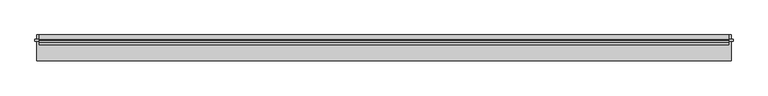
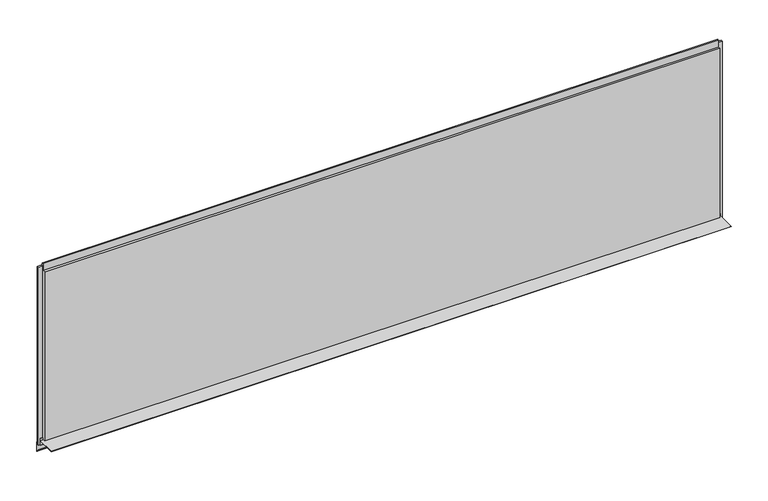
"""IFC4 building model written with IfcOpenShell, lengths in millimetres: plate geometry, Trimo_Qbiss Screen_Normal Panel-HORIZONTAL : HR - B."""

import ifcopenshell
import ifcopenshell.guid

model = None  # the IFC model being written
_history = None  # IfcOwnerHistory: only IFC2X3 demands one
_inside = {}  # id of a spatial element -> (the spatial element, [elements in it])
_under = {}  # id of a project, library or spatial element -> (it, [spatial elements below it])
_declared = {}  # id of a project -> (the project, [libraries it declares])
_typed = {}  # id of a type object -> (the type object, [elements of that type])
_made_of = {}  # id of a material, layer set ... -> (it, [elements and type objects made of it])


def new_model(schema):
    """Start an empty IFC model of exactly this schema.

    Asked for "IFC4X3", IfcOpenShell would pick the latest addendum, in which some entities
    have other attributes; the version numbers below select the first issue.
    IFC2X3 requires an IfcOwnerHistory on every rooted entity: one is made here for all.
    """
    global model, _history
    if schema == "IFC4X3":
        model = ifcopenshell.file(schema_version=(4, 3, 0, 0))
    else:
        model = ifcopenshell.file(schema=schema)
    _inside.clear()
    _under.clear()
    _declared.clear()
    _typed.clear()
    _made_of.clear()
    _history = None
    if model.schema == "IFC2X3":
        org = make("IfcOrganization", Name="unknown")
        user = make(
            "IfcPersonAndOrganization",
            ThePerson=make("IfcPerson", FamilyName="unknown"),
            TheOrganization=org,
        )
        app = make(
            "IfcApplication",
            ApplicationDeveloper=org,
            Version="unknown",
            ApplicationFullName="unknown",
            ApplicationIdentifier="unknown",
        )
        _history = make(
            "IfcOwnerHistory",
            OwningUser=user,
            OwningApplication=app,
            ChangeAction="ADDED",
            CreationDate=0,
        )
    return model


def make(cls, **values):
    """One entity of the class cls with the attributes given. An attribute that is None is left unset."""
    return model.create_entity(
        cls, **{name: value for name, value in values.items() if value is not None}
    )


def rooted(cls, **values):
    """An entity with a GlobalId (a new one), such as an element, a storey or a relation."""
    return make(cls, GlobalId=ifcopenshell.guid.new(), OwnerHistory=_history, **values)


def si_unit(unit_type, name, prefix=None):
    """IfcSIUnit, for example si_unit("LENGTHUNIT", "METRE", prefix="MILLI")."""
    return make("IfcSIUnit", UnitType=unit_type, Prefix=prefix, Name=name)


def assignment(units):
    """IfcUnitAssignment: the units of a project."""
    return None if units is None else make("IfcUnitAssignment", Units=units)


def point(xyz):
    """IfcCartesianPoint."""
    return None if xyz is None else make("IfcCartesianPoint", Coordinates=xyz)


def direction(xyz):
    """IfcDirection."""
    return None if xyz is None else make("IfcDirection", DirectionRatios=xyz)


def frame(location, z_axis=None, x_axis=None):
    """IfcAxis2Placement3D, a coordinate frame: its origin and axes. An axis left out is left unset."""
    return make(
        "IfcAxis2Placement3D",
        Location=point(location),
        Axis=direction(z_axis),
        RefDirection=direction(x_axis),
    )


def origin():
    """The frame at (0, 0, 0) with its axes left unset."""
    return frame((0.0, 0.0, 0.0))


def place(relative_to, where):
    """IfcLocalPlacement: puts the frame where relative to a parent placement (None: the world)."""
    return make(
        "IfcLocalPlacement", PlacementRelTo=relative_to, RelativePlacement=where
    )


def context(
    kind, dimensions, precision=None, world=None, true_north=None, identifier=None
):
    """IfcGeometricRepresentationContext, for example the 3D "Model" context."""
    return make(
        "IfcGeometricRepresentationContext",
        ContextIdentifier=identifier,
        ContextType=kind,
        CoordinateSpaceDimension=dimensions,
        Precision=precision,
        WorldCoordinateSystem=world,
        TrueNorth=true_north,
    )


def project(units=None, contexts=None):
    """IfcProject with its units and contexts."""
    return rooted(
        "IfcProject",
        Name="project",
        RepresentationContexts=contexts,
        UnitsInContext=assignment(units),
    )


def spatial(cls, under=None, at=None, **own):
    """A site, building, storey or space (cls), placed at a placement, below another one or the project."""
    s = rooted(cls, ObjectPlacement=at, **own)
    if under is not None:
        _under.setdefault(under.id(), (under, []))[1].append(s)
    return s


def polyline(points):
    """IfcPolyline through the points."""
    return make("IfcPolyline", Points=[point(p) for p in points])


def outline(outer, holes=None, kind="AREA"):
    """IfcArbitraryClosedProfileDef: a profile drawn as a closed curve; with holes, ...WithVoids."""
    if holes is None:
        return make("IfcArbitraryClosedProfileDef", ProfileType=kind, OuterCurve=outer)
    return make(
        "IfcArbitraryProfileDefWithVoids",
        ProfileType=kind,
        OuterCurve=outer,
        InnerCurves=holes,
    )


def extrude(swept, where, along, depth):
    """IfcExtrudedAreaSolid: the profile swept, set in the frame where, extruded along a direction by depth."""
    return make(
        "IfcExtrudedAreaSolid",
        SweptArea=swept,
        Position=where,
        ExtrudedDirection=direction(along),
        Depth=depth,
    )


def shape(context_of_items, identifier, shape_type, items):
    """IfcShapeRepresentation: the items that make up one representation, for example the "Body"."""
    return make(
        "IfcShapeRepresentation",
        ContextOfItems=context_of_items,
        RepresentationIdentifier=identifier,
        RepresentationType=shape_type,
        Items=items,
    )


def source(mapping_origin, context_of_items, identifier, shape_type, items):
    """IfcRepresentationMap: a shape defined once, which mapped items show again and again."""
    return make(
        "IfcRepresentationMap",
        MappingOrigin=mapping_origin,
        MappedRepresentation=shape(context_of_items, identifier, shape_type, items),
    )


def transform(
    local_origin,
    x_axis=None,
    y_axis=None,
    z_axis=None,
    scale=None,
    scale2=None,
    scale3=None,
    uniform=True,
):
    """IfcCartesianTransformationOperator3D, or its non-uniform kind. x_axis, y_axis, z_axis: its Axis1, 2, 3."""
    if uniform:
        return make(
            "IfcCartesianTransformationOperator3D",
            Axis1=direction(x_axis),
            Axis2=direction(y_axis),
            LocalOrigin=point(local_origin),
            Scale=scale,
            Axis3=direction(z_axis),
        )
    return make(
        "IfcCartesianTransformationOperator3DnonUniform",
        Axis1=direction(x_axis),
        Axis2=direction(y_axis),
        LocalOrigin=point(local_origin),
        Scale=scale,
        Axis3=direction(z_axis),
        Scale2=scale2,
        Scale3=scale3,
    )


def mapped(mapping_source, mapping_target):
    """IfcMappedItem: shows the shape of a source again, moved by a transform."""
    return make(
        "IfcMappedItem", MappingSource=mapping_source, MappingTarget=mapping_target
    )


def made_of(thing, what):
    """Note that an element or type object is made of a material, layer set ...; save() writes the relation."""
    if what is not None:
        _made_of.setdefault(what.id(), (what, []))[1].append(thing)
    return thing


def element(
    cls,
    number,
    at=None,
    inside=None,
    cuts=None,
    type_object=None,
    material=None,
    context=None,
    identifier="Body",
    shape_type=None,
    held_by="IfcProductDefinitionShape",
    body=None,
    shapes=None,
    **own,
):
    """One element of the class cls, such as IfcWall. Its Tag is "e" and its number.

    at: its placement. inside: the storey or other place that contains it. cuts: it is an
    opening in that element (IfcRelVoidsElement). A single representation is given by context,
    identifier, shape_type and body (its items); several are given by shapes. held_by: the class
    of the entity that holds the representations. save() writes the other relations.
    """
    e = rooted(cls, Tag="e%d" % number, ObjectPlacement=at, **own)
    if body is not None:
        shapes = [shape(context, identifier, shape_type, body)]
    if shapes is not None:
        e.Representation = make(held_by, Representations=shapes)
    if inside is not None:
        _inside.setdefault(inside.id(), (inside, []))[1].append(e)
    if cuts is not None:
        rooted(
            "IfcRelVoidsElement", RelatingBuildingElement=cuts, RelatedOpeningElement=e
        )
    if type_object is not None:
        _typed.setdefault(type_object.id(), (type_object, []))[1].append(e)
    return made_of(e, material)


def aggregate(whole, parts):
    """IfcRelAggregates: a whole, such as a stair, and the parts it consists of."""
    return rooted("IfcRelAggregates", RelatingObject=whole, RelatedObjects=parts)


def save(model, path):
    """Write the relations noted so far, then the file.

    IfcRelAggregates (storeys below a building ...), IfcRelContainedInSpatialStructure (elements
    in a storey), IfcRelDefinesByType, IfcRelAssociatesMaterial and IfcRelDeclares: one each for
    every whole, place, type object, material and project.
    """
    for whole, parts in _under.values():
        aggregate(whole, parts)
    for where, things in _inside.values():
        rooted(
            "IfcRelContainedInSpatialStructure",
            RelatedElements=things,
            RelatingStructure=where,
        )
    for kind, things in _typed.values():
        rooted("IfcRelDefinesByType", RelatedObjects=things, RelatingType=kind)
    for what, things in _made_of.values():
        rooted("IfcRelAssociatesMaterial", RelatedObjects=things, RelatingMaterial=what)
    for by, libraries in _declared.values():
        rooted("IfcRelDeclares", RelatingContext=by, RelatedDefinitions=libraries)
    model.write(path)


def plate_ef928dc7(model_context):
    return source(origin(), model_context, "Body", "SweptSolid", [
        extrude(outline(polyline([(66.7, 14.0835797), (67.5, 14.0835797), (67.5, -23.0), (100.0, -25.8433816), (100.0, -76.0), (87.1509533, -63.1509533), (87.7166388, -62.5852679), (99.2, -74.0686292), (99.2, -26.5764465), (66.7, -23.7330649), (66.7, 1.0), (-32.5, 1.0), (-32.5, 1.8), (66.7, 1.8), (66.7, 14.0835797)])), frame((-1787.5, 0.0, 0.0), z_axis=(1.0, 0.0, 0.0), x_axis=(0.0, 1.0, 0.0)), (0.0, 0.0, 1.0), 3575.0),
        extrude(outline(polyline([(-1778.0, 76.5978162), (-1778.0, 67.8978162), (-1797.0, 67.8978162), (-1797.0, 76.5978162), (-1778.0, 76.5978162)])), frame((0.0, 0.0, -20.0), z_axis=(0.0, 0.0, 1.0), x_axis=(1.0, 0.0, 0.0)), (0.0, 0.0, 1.0), 989.0),
        extrude(outline(polyline([(1778.0, 67.8978162), (1778.0, 76.5978162), (1797.0, 76.5978162), (1797.0, 67.8978162), (1778.0, 67.8978162)])), frame((0.0, 0.0, -20.0), z_axis=(0.0, 0.0, 1.0), x_axis=(1.0, 0.0, 0.0)), (0.0, 0.0, 1.0), 989.0),
        extrude(outline(polyline([(1775.0, 76.0), (1775.0, 71.0), (-1775.0, 71.0), (-1775.0, 76.0), (1775.0, 76.0)])), frame((0.0, 0.0, 948.0), z_axis=(0.0, 0.0, 1.0), x_axis=(1.0, 0.0, 0.0)), (0.0, 0.0, 1.0), 21.0),
        extrude(outline(polyline([(71.0, 947.0), (100.0, 947.0), (100.0, 0.0), (72.0, 0.0), (72.0, 15.5), (62.0, 15.5), (62.0, 7.0), (50.0, 7.0), (50.0, 947.0), (63.0, 947.0), (63.0, 984.5), (71.0, 984.5), (71.0, 947.0)])), frame((-1775.0, 0.0, 0.0), z_axis=(1.0, 0.0, 0.0), x_axis=(0.0, 1.0, 0.0)), (0.0, 0.0, 1.0), 3550.0),
    ])


if __name__ == "__main__":
    model = new_model("IFC4")
    model_context = context("Model", 3, world=origin())
    ifc_project = project(units=[si_unit("LENGTHUNIT", "METRE", prefix="MILLI")], contexts=[model_context])
    site = spatial("IfcSite", under=ifc_project)
    building = spatial("IfcBuilding", under=site)
    placement = place(None, origin())
    plate_shape = plate_ef928dc7(model_context)
    element("IfcPlate", 1, ObjectType="Trimo_Qbiss Screen_Normal Panel-HORIZONTAL : HR - B", at=placement, inside=building, context=model_context, shape_type="MappedRepresentation", body=[
        mapped(plate_shape, transform((0.0, 0.0, 0.0), x_axis=(1.0, 0.0, 0.0), y_axis=(0.0, 1.0, 0.0), z_axis=(0.0, 0.0, 1.0))),
    ])
    save(model, "model.ifc")
